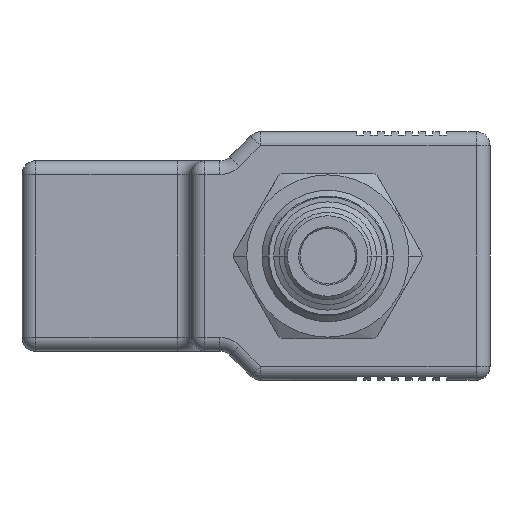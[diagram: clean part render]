
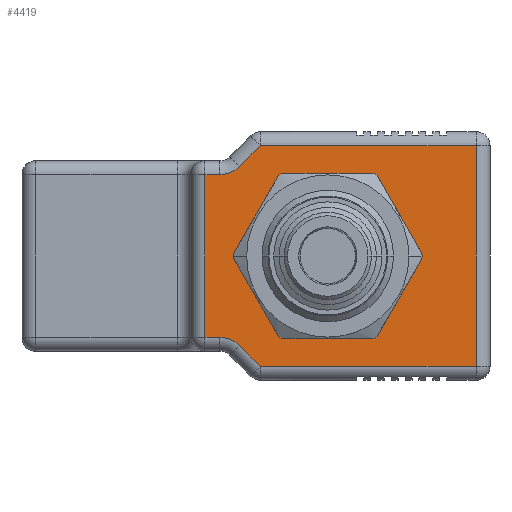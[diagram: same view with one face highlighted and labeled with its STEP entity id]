
A CAD part, left-side view. The second image highlights one B-rep face of the part: STEP entity #4419.
In plain terms, the highlighted planar face has unit normal (-1, 0, 0).
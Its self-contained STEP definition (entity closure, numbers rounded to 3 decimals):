
#563=DIRECTION('',(0.,0.707,0.707));
#564=VECTOR('',#563,4.283);
#565=CARTESIAN_POINT('',(10.5,9.772,-16.));
#566=LINE('',#565,#564);
#567=CARTESIAN_POINT('',(10.5,15.628,-15.8));
#568=DIRECTION('',(-1.,0.,0.));
#569=DIRECTION('',(0.,-0.707,0.707));
#570=AXIS2_PLACEMENT_3D('',#567,#568,#569);
#572=CARTESIAN_POINT('',(10.5,15.628,15.8));
#573=DIRECTION('',(-1.,0.,0.));
#574=DIRECTION('',(0.,0.,-1.));
#575=AXIS2_PLACEMENT_3D('',#572,#573,#574);
#577=DIRECTION('',(0.,-0.707,0.707));
#578=VECTOR('',#577,4.283);
#579=CARTESIAN_POINT('',(10.5,12.8,12.972));
#580=LINE('',#579,#578);
#581=CARTESIAN_POINT('',(10.5,0.,0.));
#582=DIRECTION('',(-1.,0.,0.));
#583=DIRECTION('',(0.,-1.,0.));
#584=AXIS2_PLACEMENT_3D('',#581,#582,#583);
#586=CARTESIAN_POINT('',(10.5,0.,0.));
#587=DIRECTION('',(-1.,0.,0.));
#588=DIRECTION('',(0.,1.,0.));
#589=AXIS2_PLACEMENT_3D('',#586,#587,#588);
#595=DIRECTION('',(0.,0.,1.));
#596=VECTOR('',#595,32.);
#597=CARTESIAN_POINT('',(10.5,-21.5,-16.));
#598=LINE('',#597,#596);
#622=DIRECTION('',(0.,1.,0.));
#623=VECTOR('',#622,31.272);
#624=CARTESIAN_POINT('',(10.5,-21.5,16.));
#625=LINE('',#624,#623);
#862=DIRECTION('',(0.,0.,-1.));
#863=VECTOR('',#862,23.6);
#864=CARTESIAN_POINT('',(10.5,17.8,11.8));
#865=LINE('',#864,#863);
#881=DIRECTION('',(0.,1.,0.));
#882=VECTOR('',#881,2.172);
#883=CARTESIAN_POINT('',(10.5,15.628,11.8));
#884=LINE('',#883,#882);
#986=DIRECTION('',(0.,-1.,0.));
#987=VECTOR('',#986,2.172);
#988=CARTESIAN_POINT('',(10.5,17.8,-11.8));
#989=LINE('',#988,#987);
#1084=DIRECTION('',(0.,-1.,0.));
#1085=VECTOR('',#1084,31.272);
#1086=CARTESIAN_POINT('',(10.5,9.772,-16.));
#1087=LINE('',#1086,#1085);
#3303=CARTESIAN_POINT('',(10.5,-21.5,-16.));
#3304=VERTEX_POINT('',#3303);
#3305=CARTESIAN_POINT('',(10.5,-21.5,16.));
#3306=VERTEX_POINT('',#3305);
#3361=CARTESIAN_POINT('',(10.5,9.772,-16.));
#3362=VERTEX_POINT('',#3361);
#3523=CARTESIAN_POINT('',(10.5,9.772,16.));
#3524=VERTEX_POINT('',#3523);
#3551=CARTESIAN_POINT('',(10.5,12.8,-12.972));
#3552=VERTEX_POINT('',#3551);
#3553=CARTESIAN_POINT('',(10.5,15.628,-11.8));
#3554=VERTEX_POINT('',#3553);
#3555=CARTESIAN_POINT('',(10.5,17.8,-11.8));
#3556=VERTEX_POINT('',#3555);
#3557=CARTESIAN_POINT('',(10.5,17.8,11.8));
#3558=VERTEX_POINT('',#3557);
#3559=CARTESIAN_POINT('',(10.5,15.628,11.8));
#3560=VERTEX_POINT('',#3559);
#3561=CARTESIAN_POINT('',(10.5,12.8,12.972));
#3562=VERTEX_POINT('',#3561);
#3563=CARTESIAN_POINT('',(10.5,-11.565,0.));
#3564=CARTESIAN_POINT('',(10.5,11.565,0.));
#3565=VERTEX_POINT('',#3563);
#3566=VERTEX_POINT('',#3564);
#4387=CARTESIAN_POINT('',(10.5,24.3,-16.));
#4388=DIRECTION('',(-1.,0.,0.));
#4389=DIRECTION('',(0.,0.,1.));
#4390=AXIS2_PLACEMENT_3D('',#4387,#4388,#4389);
#4391=PLANE('',#4390);
#4393=ORIENTED_EDGE('',*,*,#4392,.F.);
#4395=ORIENTED_EDGE('',*,*,#4394,.F.);
#4397=ORIENTED_EDGE('',*,*,#4396,.T.);
#4399=ORIENTED_EDGE('',*,*,#4398,.T.);
#4401=ORIENTED_EDGE('',*,*,#4400,.F.);
#4403=ORIENTED_EDGE('',*,*,#4402,.F.);
#4405=ORIENTED_EDGE('',*,*,#4404,.F.);
#4407=ORIENTED_EDGE('',*,*,#4406,.T.);
#4409=ORIENTED_EDGE('',*,*,#4408,.T.);
#4411=ORIENTED_EDGE('',*,*,#4410,.F.);
#4412=EDGE_LOOP('',(#4393,#4395,#4397,#4399,#4401,#4403,#4405,#4407,#4409,
#4411));
#4413=FACE_OUTER_BOUND('',#4412,.F.);
#4414=ORIENTED_EDGE('',*,*,#4365,.T.);
#4416=ORIENTED_EDGE('',*,*,#4415,.T.);
#4417=EDGE_LOOP('',(#4414,#4416));
#4418=FACE_BOUND('',#4417,.F.);
#571=CIRCLE('',#570,4.);
#576=CIRCLE('',#575,4.);
#585=CIRCLE('',#584,11.565);
#590=CIRCLE('',#589,11.565);
#4365=EDGE_CURVE('',#3565,#3566,#585,.T.);
#4392=EDGE_CURVE('',#3304,#3306,#598,.T.);
#4394=EDGE_CURVE('',#3362,#3304,#1087,.T.);
#4396=EDGE_CURVE('',#3362,#3552,#566,.T.);
#4398=EDGE_CURVE('',#3552,#3554,#571,.T.);
#4400=EDGE_CURVE('',#3556,#3554,#989,.T.);
#4402=EDGE_CURVE('',#3558,#3556,#865,.T.);
#4404=EDGE_CURVE('',#3560,#3558,#884,.T.);
#4406=EDGE_CURVE('',#3560,#3562,#576,.T.);
#4408=EDGE_CURVE('',#3562,#3524,#580,.T.);
#4410=EDGE_CURVE('',#3306,#3524,#625,.T.);
#4415=EDGE_CURVE('',#3566,#3565,#590,.T.);
#4419=ADVANCED_FACE('',(#4413,#4418),#4391,.T.);
